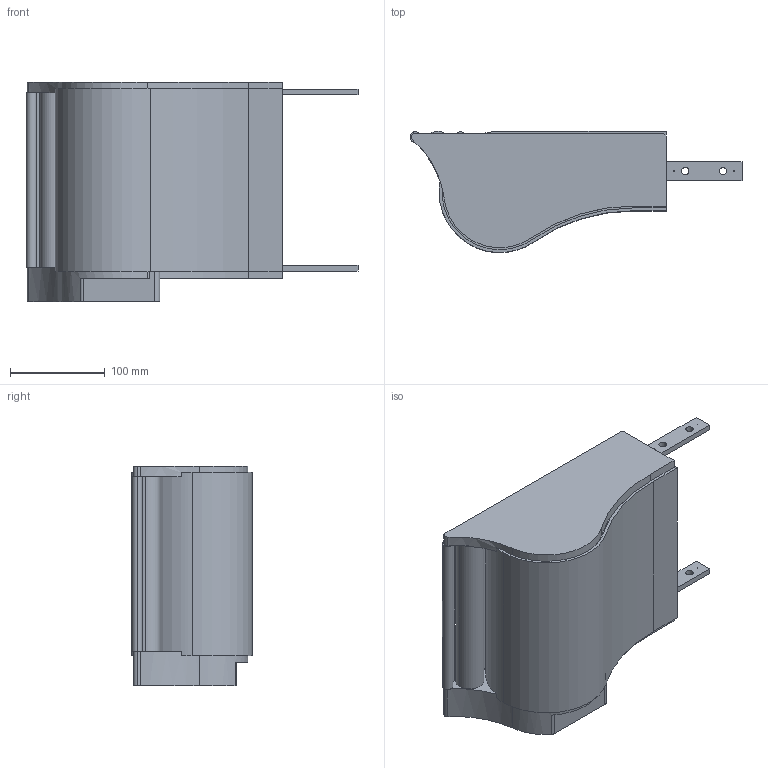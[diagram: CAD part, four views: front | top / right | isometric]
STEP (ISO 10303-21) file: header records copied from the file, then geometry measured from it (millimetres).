
FILE_DESCRIPTION (( 'STEP AP214' ), '1' );
FILE_NAME ('880120-003 CS200SL Aangedr. overgang type A omloop.STEP', '2015-05-06T13:34:12', ( 'Beheerder' ), ( '' ), 'SwSTEP 2.0', 'SolidWorks 2012', '' );
FILE_SCHEMA (( 'AUTOMOTIVE_DESIGN' ));
Length unit declared in the file: millimetre
Products named in the file (1): 880120-003 CS200SL Aangedr. overgang type A omloop
Bounding box: 350.75 x 127.87 x 232.4 mm (x, y, z)
Volume: 5429069.2 mm3; surface area: 252462.4 mm2
Topology: 1 solids, 1 shells, 98 faces, 300 edges, 196 vertices
Faces by surface type: plane 54, cylinder 44
Entity records: 3470 total; most frequent: DIRECTION 610, ORIENTED_EDGE 600, CARTESIAN_POINT 595, EDGE_CURVE 300, AXIS2_PLACEMENT_3D 211, VERTEX_POINT 196, VECTOR 188, LINE 188
